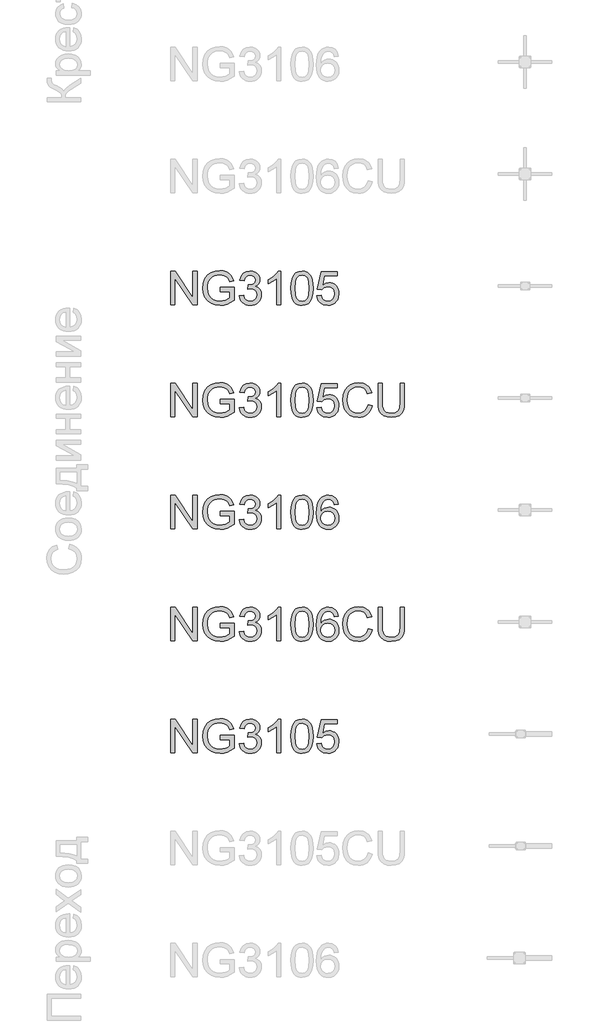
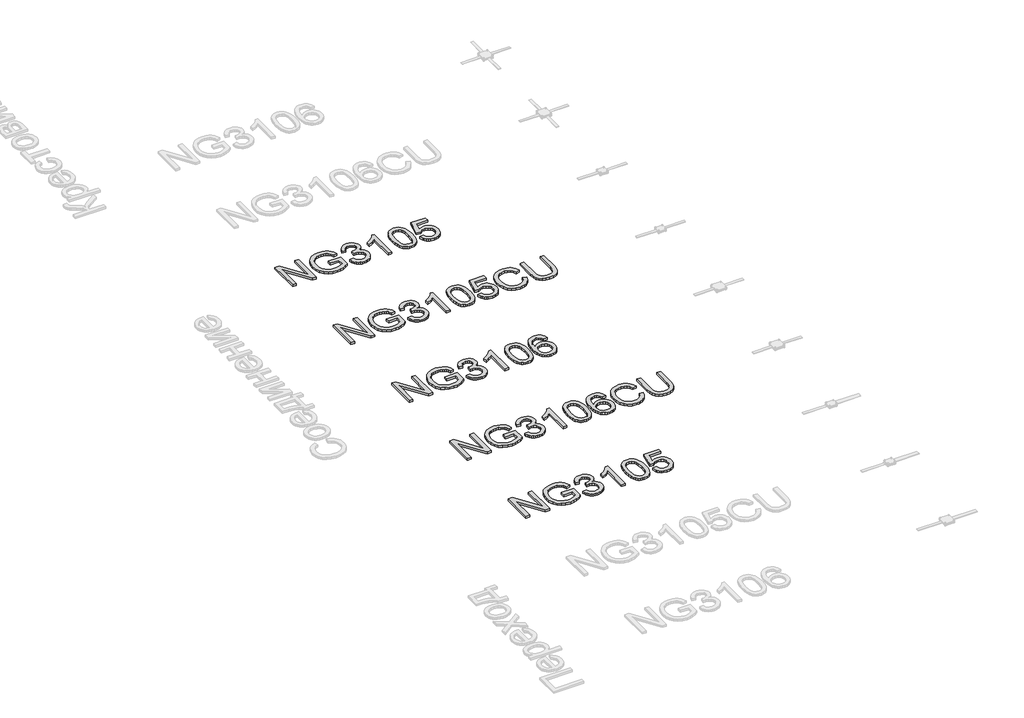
# One storey, part 113 of 124: 5 proxies.
"""IFC4 building model written with IfcOpenShell, lengths in millimetres."""

from ifc_helpers import new_model, si_unit, origin, origin_with_axes, place, context, project, spatial, polyline, outline, extrude, element, save

model = new_model("IFC4")

# Units and contexts
model_context = context("Model", 3, world=origin())
ifc_project = project(units=[si_unit("LENGTHUNIT", "METRE", prefix="MILLI")], contexts=[model_context])

# Site, building, storey
site = spatial("IfcSite", under=ifc_project)
building = spatial("IfcBuilding", under=site)
storey = spatial("IfcBuildingStorey", under=building, Name="Этаж 01", Elevation=0.0)

# Proxies
placement = place(None, origin())
element("IfcBuildingElementProxy", 1, Name="300", ObjectType="300", at=placement, inside=storey, context=model_context, shape_type="SweptSolid", body=[
    extrude(outline(polyline([(56699.8220677, -17519.5141033), (56699.8220677, -17218.1451728), (56740.1419344, -17218.1451728), (56897.5954283, -17456.9005877), (56897.5954283, -17218.1451728), (56935.2665446, -17218.1451728), (56935.2665446, -17519.5141033), (56894.9466779, -17519.5141033), (56737.493184, -17280.685112), (56737.493184, -17519.5141033), (56699.8220677, -17519.5141033)])), origin_with_axes(), (0.0, 0.0, 1.0), 20.0),
    extrude(outline(polyline([(57142.4576843, -17401.7918648), (57142.4576843, -17364.1207485), (57264.8888123, -17364.1207485), (57264.8888123, -17476.7662154), (57235.1363559, -17497.4595776), (57204.4458005, -17512.3036162), (57172.8907223, -17521.2431486), (57140.5446979, -17524.2229928), (57098.2842537, -17519.4865121), (57060.0889056, -17505.27707), (57028.3590835, -17482.0913073), (57005.4952175, -17450.4258646), (56991.6720515, -17412.4420486), (56987.0643295, -17370.301166), (56991.6536574, -17327.8567808), (57005.4216411, -17288.3738457), (57027.7980634, -17255.2552691), (57058.2127074, -17231.9039594), (57095.2584243, -17218.0532023), (57137.5280656, -17213.4362833), (57168.5589118, -17216.1126248), (57196.4627612, -17224.1416493), (57219.9612236, -17236.9439428), (57237.7759092, -17253.9400909), (57250.9552817, -17275.9486313), (57260.5478047, -17303.7881013), (57225.8197444, -17313.5737624), (57218.0666313, -17293.7173317), (57208.6396552, -17278.7353374), (57196.1684556, -17267.4413602), (57179.282672, -17258.6489805), (57159.1503298, -17252.9927948), (57136.9394544, -17251.1073996), (57110.9393944, -17253.1399476), (57088.7101248, -17259.2375917), (57070.3344191, -17268.6369766), (57055.8950508, -17280.5747474), (57036.5076697, -17309.6006368), (57027.6785018, -17338.037915), (57024.7354458, -17368.7560616), (57028.27631, -17404.780906), (57038.8989026, -17434.4229978), (57056.2813269, -17457.4708048), (57080.1016861, -17473.7127949), (57107.9779443, -17483.3421061), (57137.5280656, -17486.5518765), (57163.6200961, -17484.1330524), (57189.0683331, -17476.87658), (57211.1688439, -17466.8793868), (57227.217696, -17456.2384001), (57227.217696, -17401.7918648), (57142.4576843, -17401.7918648)])), origin_with_axes(), (0.0, 0.0, 1.0), 20.0),
    extrude(outline(polyline([(57311.9777077, -17439.4629811), (57349.648824, -17434.7540916), (57358.0825187, -17458.427298), (57370.4341567, -17474.4117707), (57387.3107432, -17483.51685), (57409.3192836, -17486.5518765), (57435.1445997, -17482.3764158), (57455.0838038, -17469.8500339), (57467.8309149, -17451.1616286), (57472.079952, -17428.5000977), (57467.8677031, -17406.988198), (57455.2309566, -17389.5413944), (57436.1010928, -17377.9807027), (57412.4094924, -17374.1271388), (57385.9955651, -17378.2474171), (57390.1894198, -17340.5763008), (57396.2226846, -17341.0177592), (57418.792245, -17338.3138265), (57438.9705724, -17330.2020285), (57453.2076056, -17316.4800301), (57457.9532834, -17296.9454962), (57454.5135867, -17280.6759149), (57444.1944967, -17267.4781484), (57428.4491473, -17258.7317539), (57408.7306724, -17255.8162891), (57388.9754093, -17258.7593451), (57372.8253897, -17267.588513), (57361.0347717, -17282.3037928), (57354.3577135, -17302.9051845), (57316.6865972, -17298.196295), (57327.7782394, -17264.3695455), (57347.5151084, -17239.1144465), (57374.5176468, -17223.3874912), (57407.4062972, -17218.1451728), (57431.0887007, -17220.7295438), (57452.8397236, -17228.4826569), (57471.1786411, -17240.7147332), (57484.624728, -17256.7359941), (57492.8744817, -17275.1944732), (57495.6243997, -17294.7382042), (57493.0124375, -17312.948363), (57485.176551, -17329.4662646), (57472.2271048, -17343.5377509), (57454.2744634, -17354.4086638), (57477.8556993, -17363.9368075), (57495.3300941, -17380.1604035), (57506.1458247, -17402.196535), (57509.7510683, -17429.1622852), (57507.9484465, -17448.2737549), (57502.5405812, -17465.8769084), (57493.5274723, -17481.9717457), (57480.9091199, -17496.5582668), (57465.536251, -17508.6615844), (57448.2595928, -17517.3068113), (57429.0791453, -17522.4939474), (57407.9949084, -17524.2229928), (57388.9386211, -17522.7468663), (57371.5745909, -17518.3184868), (57355.9028179, -17510.9378542), (57341.9233021, -17500.6049687), (57330.201662, -17487.9268354), (57321.3035162, -17473.5104598), (57315.2288648, -17457.3558417), (57311.9777077, -17439.4629811)])), origin_with_axes(), (0.0, 0.0, 1.0), 20.0),
    extrude(outline(polyline([(57683.9799812, -17519.5141033), (57646.3088649, -17519.5141033), (57646.3088649, -17284.6582375), (57610.6243114, -17310.0788834), (57570.9666323, -17329.0983826), (57570.9666323, -17293.4874054), (57600.5535417, -17277.3925681), (57626.1857197, -17258.2443103), (57646.3916383, -17237.8820419), (57659.6997695, -17218.1451728), (57683.9799812, -17218.1451728), (57683.9799812, -17519.5141033)])), origin_with_axes(), (0.0, 0.0, 1.0), 20.0),
    extrude(outline(polyline([(57773.4488824, -17371.2576592), (57776.2171944, -17323.0191326), (57784.5221305, -17284.5478729), (57798.2809171, -17255.2552691), (57817.4107808, -17234.5527098), (57842.0496775, -17222.2470571), (57872.3355627, -17218.1451728), (57895.5489166, -17220.573194), (57916.3342493, -17227.8572575), (57933.7166736, -17239.7122548), (57946.7213021, -17255.8530773), (57956.5437514, -17276.1417694), (57964.3796379, -17300.4403751), (57969.5115917, -17331.2964775), (57971.222243, -17371.2576592), (57968.4815222, -17419.2202743), (57960.2593596, -17457.5995635), (57946.5833464, -17486.9197585), (57927.4810738, -17507.7050912), (57902.7869949, -17520.0935174), (57872.3355627, -17524.2229928), (57851.5870182, -17522.4295681), (57833.1929184, -17517.0492939), (57817.1532634, -17508.0821703), (57803.4680532, -17495.5281972), (57790.334666, -17472.8344766), (57780.9536751, -17444.5581467), (57775.3250806, -17410.6992076), (57773.4488824, -17371.2576592)]), holes=[polyline([(57811.1199987, -17371.1840828), (57815.5345827, -17430.4406752), (57821.0528126, -17450.7086739), (57828.7783345, -17464.7364742), (57848.4968094, -17481.0980259), (57872.3355627, -17486.5518765), (57896.174316, -17481.0796318), (57915.892791, -17464.6628978), (57923.6183128, -17450.6121048), (57929.1365428, -17430.3487047), (57933.5511267, -17371.1840828), (57929.2836956, -17313.2610627), (57923.9494066, -17293.0597426), (57916.4814021, -17278.6985492), (57896.7997154, -17261.5368541), (57871.8941043, -17255.8162891), (57848.3128684, -17260.8562725), (57829.3669457, -17275.9762225), (57821.3839064, -17291.6112072), (57815.6817355, -17312.6908456), (57811.1199987, -17371.1840828)])]), origin_with_axes(), (0.0, 0.0, 1.0), 20.0),
    extrude(outline(polyline([(58004.1844698, -17439.4629811), (58041.8555861, -17434.7540916), (58048.7717676, -17457.3696372), (58060.838297, -17473.5656421), (58077.9999921, -17483.3053179), (58100.2016705, -17486.5518765), (58127.204209, -17482.036125), (58147.4377187, -17468.4888705), (58160.0744652, -17447.4736116), (58164.2867141, -17420.5538466), (58160.3411797, -17395.2067771), (58148.5045765, -17375.8193959), (58128.684934, -17363.5137432), (58100.7902817, -17359.411859), (58082.5157436, -17361.0489338), (58067.7176904, -17365.9601585), (58046.5644756, -17382.9563067), (58008.8933593, -17378.2474171), (58041.8555861, -17222.8540624), (58187.8311618, -17222.8540624), (58187.8311618, -17260.5251787), (58072.3162153, -17260.5251787), (58056.2029839, -17343.5193568), (58083.1135519, -17327.1853962), (58111.3117068, -17321.7407427), (58129.657522, -17323.4284013), (58146.5088167, -17328.4913773), (58161.8655907, -17336.9296705), (58175.7278441, -17348.7432811), (58187.2034631, -17363.2102406), (58195.4003338, -17379.6085805), (58200.3184563, -17397.9383009), (58201.9578304, -17418.1994018), (58196.0533244, -17455.8705181), (58188.6726918, -17472.6643312), (58178.3398063, -17488.0969809), (58162.6864274, -17503.9021111), (58144.4210864, -17515.1914898), (58123.5437831, -17521.9651171), (58100.0545177, -17524.2229928), (58063.0547861, -17518.4196543), (58047.3761153, -17511.1654812), (58033.5782412, -17501.0096389), (58022.0980237, -17488.4579651), (58013.3723226, -17474.0162975), (58004.1844698, -17439.4629811)])), origin_with_axes(), (0.0, 0.0, 1.0), 20.0),
])
element("IfcBuildingElementProxy", 2, Name="300", ObjectType="300", at=placement, inside=storey, context=model_context, shape_type="SweptSolid", body=[
    extrude(outline(polyline([(56699.8220677, -18519.5141033), (56699.8220677, -18218.1451728), (56740.1419344, -18218.1451728), (56897.5954283, -18456.9005877), (56897.5954283, -18218.1451728), (56935.2665446, -18218.1451728), (56935.2665446, -18519.5141033), (56894.9466779, -18519.5141033), (56737.493184, -18280.685112), (56737.493184, -18519.5141033), (56699.8220677, -18519.5141033)])), origin_with_axes(), (0.0, 0.0, 1.0), 20.0),
    extrude(outline(polyline([(57142.4576843, -18401.7918648), (57142.4576843, -18364.1207485), (57264.8888123, -18364.1207485), (57264.8888123, -18476.7662154), (57235.1363559, -18497.4595776), (57204.4458005, -18512.3036162), (57172.8907223, -18521.2431486), (57140.5446979, -18524.2229928), (57098.2842537, -18519.4865121), (57060.0889056, -18505.27707), (57028.3590835, -18482.0913073), (57005.4952175, -18450.4258646), (56991.6720515, -18412.4420486), (56987.0643295, -18370.301166), (56991.6536574, -18327.8567808), (57005.4216411, -18288.3738457), (57027.7980634, -18255.2552691), (57058.2127074, -18231.9039594), (57095.2584243, -18218.0532023), (57137.5280656, -18213.4362833), (57168.5589118, -18216.1126248), (57196.4627612, -18224.1416493), (57219.9612236, -18236.9439428), (57237.7759092, -18253.9400909), (57250.9552817, -18275.9486313), (57260.5478047, -18303.7881013), (57225.8197444, -18313.5737624), (57218.0666313, -18293.7173317), (57208.6396552, -18278.7353374), (57196.1684556, -18267.4413602), (57179.282672, -18258.6489805), (57159.1503298, -18252.9927948), (57136.9394544, -18251.1073996), (57110.9393944, -18253.1399476), (57088.7101248, -18259.2375917), (57070.3344191, -18268.6369766), (57055.8950508, -18280.5747474), (57036.5076697, -18309.6006368), (57027.6785018, -18338.037915), (57024.7354458, -18368.7560616), (57028.27631, -18404.780906), (57038.8989026, -18434.4229978), (57056.2813269, -18457.4708048), (57080.1016861, -18473.7127949), (57107.9779443, -18483.3421061), (57137.5280656, -18486.5518765), (57163.6200961, -18484.1330524), (57189.0683331, -18476.87658), (57211.1688439, -18466.8793868), (57227.217696, -18456.2384001), (57227.217696, -18401.7918648), (57142.4576843, -18401.7918648)])), origin_with_axes(), (0.0, 0.0, 1.0), 20.0),
    extrude(outline(polyline([(57311.9777077, -18439.4629811), (57349.648824, -18434.7540916), (57358.0825187, -18458.427298), (57370.4341567, -18474.4117707), (57387.3107432, -18483.51685), (57409.3192836, -18486.5518765), (57435.1445997, -18482.3764158), (57455.0838038, -18469.8500339), (57467.8309149, -18451.1616286), (57472.079952, -18428.5000977), (57467.8677031, -18406.988198), (57455.2309566, -18389.5413944), (57436.1010928, -18377.9807027), (57412.4094924, -18374.1271388), (57385.9955651, -18378.2474171), (57390.1894198, -18340.5763008), (57396.2226846, -18341.0177592), (57418.792245, -18338.3138265), (57438.9705724, -18330.2020285), (57453.2076056, -18316.4800301), (57457.9532834, -18296.9454962), (57454.5135867, -18280.6759149), (57444.1944967, -18267.4781484), (57428.4491473, -18258.7317539), (57408.7306724, -18255.8162891), (57388.9754093, -18258.7593451), (57372.8253897, -18267.588513), (57361.0347717, -18282.3037928), (57354.3577135, -18302.9051845), (57316.6865972, -18298.196295), (57327.7782394, -18264.3695455), (57347.5151084, -18239.1144465), (57374.5176468, -18223.3874912), (57407.4062972, -18218.1451728), (57431.0887007, -18220.7295438), (57452.8397236, -18228.4826569), (57471.1786411, -18240.7147332), (57484.624728, -18256.7359941), (57492.8744817, -18275.1944732), (57495.6243997, -18294.7382042), (57493.0124375, -18312.948363), (57485.176551, -18329.4662646), (57472.2271048, -18343.5377509), (57454.2744634, -18354.4086638), (57477.8556993, -18363.9368075), (57495.3300941, -18380.1604035), (57506.1458247, -18402.196535), (57509.7510683, -18429.1622852), (57507.9484465, -18448.2737549), (57502.5405812, -18465.8769084), (57493.5274723, -18481.9717457), (57480.9091199, -18496.5582668), (57465.536251, -18508.6615844), (57448.2595928, -18517.3068113), (57429.0791453, -18522.4939474), (57407.9949084, -18524.2229928), (57388.9386211, -18522.7468663), (57371.5745909, -18518.3184868), (57355.9028179, -18510.9378542), (57341.9233021, -18500.6049687), (57330.201662, -18487.9268354), (57321.3035162, -18473.5104598), (57315.2288648, -18457.3558417), (57311.9777077, -18439.4629811)])), origin_with_axes(), (0.0, 0.0, 1.0), 20.0),
    extrude(outline(polyline([(57683.9799812, -18519.5141033), (57646.3088649, -18519.5141033), (57646.3088649, -18284.6582375), (57610.6243114, -18310.0788834), (57570.9666323, -18329.0983826), (57570.9666323, -18293.4874054), (57600.5535417, -18277.3925681), (57626.1857197, -18258.2443103), (57646.3916383, -18237.8820419), (57659.6997695, -18218.1451728), (57683.9799812, -18218.1451728), (57683.9799812, -18519.5141033)])), origin_with_axes(), (0.0, 0.0, 1.0), 20.0),
    extrude(outline(polyline([(57773.4488824, -18371.2576592), (57776.2171944, -18323.0191326), (57784.5221305, -18284.5478729), (57798.2809171, -18255.2552691), (57817.4107808, -18234.5527098), (57842.0496775, -18222.2470571), (57872.3355627, -18218.1451728), (57895.5489166, -18220.573194), (57916.3342493, -18227.8572575), (57933.7166736, -18239.7122548), (57946.7213021, -18255.8530773), (57956.5437514, -18276.1417694), (57964.3796379, -18300.4403751), (57969.5115917, -18331.2964775), (57971.222243, -18371.2576592), (57968.4815222, -18419.2202743), (57960.2593596, -18457.5995635), (57946.5833464, -18486.9197585), (57927.4810738, -18507.7050912), (57902.7869949, -18520.0935174), (57872.3355627, -18524.2229928), (57851.5870182, -18522.4295681), (57833.1929184, -18517.0492939), (57817.1532634, -18508.0821703), (57803.4680532, -18495.5281972), (57790.334666, -18472.8344766), (57780.9536751, -18444.5581467), (57775.3250806, -18410.6992076), (57773.4488824, -18371.2576592)]), holes=[polyline([(57811.1199987, -18371.1840828), (57815.5345827, -18430.4406752), (57821.0528126, -18450.7086739), (57828.7783345, -18464.7364742), (57848.4968094, -18481.0980259), (57872.3355627, -18486.5518765), (57896.174316, -18481.0796318), (57915.892791, -18464.6628978), (57923.6183128, -18450.6121048), (57929.1365428, -18430.3487047), (57933.5511267, -18371.1840828), (57929.2836956, -18313.2610627), (57923.9494066, -18293.0597426), (57916.4814021, -18278.6985492), (57896.7997154, -18261.5368541), (57871.8941043, -18255.8162891), (57848.3128684, -18260.8562725), (57829.3669457, -18275.9762225), (57821.3839064, -18291.6112072), (57815.6817355, -18312.6908456), (57811.1199987, -18371.1840828)])]), origin_with_axes(), (0.0, 0.0, 1.0), 20.0),
    extrude(outline(polyline([(58004.1844698, -18439.4629811), (58041.8555861, -18434.7540916), (58048.7717676, -18457.3696372), (58060.838297, -18473.5656421), (58077.9999921, -18483.3053179), (58100.2016705, -18486.5518765), (58127.204209, -18482.036125), (58147.4377187, -18468.4888705), (58160.0744652, -18447.4736116), (58164.2867141, -18420.5538466), (58160.3411797, -18395.2067771), (58148.5045765, -18375.8193959), (58128.684934, -18363.5137432), (58100.7902817, -18359.411859), (58082.5157436, -18361.0489338), (58067.7176904, -18365.9601585), (58046.5644756, -18382.9563067), (58008.8933593, -18378.2474171), (58041.8555861, -18222.8540624), (58187.8311618, -18222.8540624), (58187.8311618, -18260.5251787), (58072.3162153, -18260.5251787), (58056.2029839, -18343.5193568), (58083.1135519, -18327.1853962), (58111.3117068, -18321.7407427), (58129.657522, -18323.4284013), (58146.5088167, -18328.4913773), (58161.8655907, -18336.9296705), (58175.7278441, -18348.7432811), (58187.2034631, -18363.2102406), (58195.4003338, -18379.6085805), (58200.3184563, -18397.9383009), (58201.9578304, -18418.1994018), (58196.0533244, -18455.8705181), (58188.6726918, -18472.6643312), (58178.3398063, -18488.0969809), (58162.6864274, -18503.9021111), (58144.4210864, -18515.1914898), (58123.5437831, -18521.9651171), (58100.0545177, -18524.2229928), (58063.0547861, -18518.4196543), (58047.3761153, -18511.1654812), (58033.5782412, -18501.0096389), (58022.0980237, -18488.4579651), (58013.3723226, -18474.0162975), (58004.1844698, -18439.4629811)])), origin_with_axes(), (0.0, 0.0, 1.0), 20.0),
    extrude(outline(polyline([(58460.946755, -18412.3868663), (58498.6178713, -18422.0989509), (58491.1636624, -18445.5261362), (58481.235447, -18465.99647), (58468.8332253, -18483.5099522), (58453.9569971, -18498.0665829), (58436.9424548, -18509.5100123), (58418.1252908, -18517.6838903), (58397.5055049, -18522.5882172), (58375.0830973, -18524.2229928), (58331.3879134, -18519.27498), (58296.6874442, -18504.4309415), (58270.0895759, -18480.2059121), (58250.7021948, -18447.1149266), (58238.8655916, -18408.2114056), (58234.9200572, -18366.5487697), (58239.3806264, -18322.6052653), (58252.7623339, -18284.6582375), (58274.3662041, -18253.9124998), (58303.4932611, -18231.5728656), (58338.0373804, -18217.9704289), (58375.8924377, -18213.4362833), (58417.1963887, -18219.3040011), (58435.1651249, -18226.6386484), (58451.3450349, -18236.9071546), (58465.4694043, -18249.8382067), (58477.2715185, -18265.1604918), (58493.9089818, -18302.9787609), (58456.2378655, -18311.9550816), (58443.1780546, -18284.4834936), (58425.3357779, -18265.6387384), (58402.490306, -18254.7402343), (58374.4209097, -18251.1073996), (58342.0656883, -18255.1357074), (58315.4862141, -18267.220631), (58295.3170837, -18286.0929773), (58282.1928935, -18310.4835536), (58274.9916035, -18338.0563091), (58272.5911735, -18366.4751933), (58275.4330619, -18401.27683), (58283.9587271, -18431.3695772), (58298.4900659, -18455.6038036), (58319.3489751, -18472.8298781), (58344.3557537, -18483.1213769), (58371.330701, -18486.5518765), (58402.7754145, -18481.8797752), (58428.9778096, -18467.8634711), (58448.7606639, -18444.6501172), (58460.946755, -18412.3868663)])), origin_with_axes(), (0.0, 0.0, 1.0), 20.0),
    extrude(outline(polyline([(58748.1890168, -18218.1451728), (58785.8601331, -18218.1451728), (58785.8601331, -18392.0062037), (58783.3033533, -18432.7215435), (58775.6330137, -18464.0742866), (58761.30401, -18488.2625278), (58738.7712378, -18507.484362), (58707.9795148, -18520.0383351), (58668.8736587, -18524.2229928), (58630.6231282, -18520.580961), (58600.0429374, -18509.6548658), (58577.1238891, -18491.8217861), (58561.8567863, -18467.4588009), (58553.2759387, -18434.7816827), (58550.4156562, -18392.0062037), (58550.4156562, -18218.1451728), (58588.0867725, -18218.1451728), (58588.0867725, -18390.6818285), (58589.9445766, -18424.5361692), (58595.5179888, -18448.108208), (58605.6163496, -18464.4329715), (58621.0489993, -18476.5454862), (58641.1721444, -18484.0502789), (58665.3419915, -18486.5518765), (58703.6569013, -18481.6038637), (58717.9997006, -18475.4188476), (58729.1327295, -18466.7598252), (58737.4698552, -18454.5829311), (58743.424945, -18437.8443003), (58748.1890168, -18390.6818285), (58748.1890168, -18218.1451728)])), origin_with_axes(), (0.0, 0.0, 1.0), 20.0),
])
element("IfcBuildingElementProxy", 3, Name="300", ObjectType="300", at=placement, inside=storey, context=model_context, shape_type="SweptSolid", body=[
    extrude(outline(polyline([(56699.8220677, -19519.5141033), (56699.8220677, -19218.1451728), (56740.1419344, -19218.1451728), (56897.5954283, -19456.9005877), (56897.5954283, -19218.1451728), (56935.2665446, -19218.1451728), (56935.2665446, -19519.5141033), (56894.9466779, -19519.5141033), (56737.493184, -19280.685112), (56737.493184, -19519.5141033), (56699.8220677, -19519.5141033)])), origin_with_axes(), (0.0, 0.0, 1.0), 20.0),
    extrude(outline(polyline([(57142.4576843, -19401.7918648), (57142.4576843, -19364.1207485), (57264.8888123, -19364.1207485), (57264.8888123, -19476.7662154), (57235.1363559, -19497.4595776), (57204.4458005, -19512.3036162), (57172.8907223, -19521.2431486), (57140.5446979, -19524.2229928), (57098.2842537, -19519.4865121), (57060.0889056, -19505.27707), (57028.3590835, -19482.0913073), (57005.4952175, -19450.4258646), (56991.6720515, -19412.4420486), (56987.0643295, -19370.301166), (56991.6536574, -19327.8567808), (57005.4216411, -19288.3738457), (57027.7980634, -19255.2552691), (57058.2127074, -19231.9039594), (57095.2584243, -19218.0532023), (57137.5280656, -19213.4362833), (57168.5589118, -19216.1126248), (57196.4627612, -19224.1416493), (57219.9612236, -19236.9439428), (57237.7759092, -19253.9400909), (57250.9552817, -19275.9486313), (57260.5478047, -19303.7881013), (57225.8197444, -19313.5737624), (57218.0666313, -19293.7173317), (57208.6396552, -19278.7353374), (57196.1684556, -19267.4413602), (57179.282672, -19258.6489805), (57159.1503298, -19252.9927948), (57136.9394544, -19251.1073996), (57110.9393944, -19253.1399476), (57088.7101248, -19259.2375917), (57070.3344191, -19268.6369766), (57055.8950508, -19280.5747474), (57036.5076697, -19309.6006368), (57027.6785018, -19338.037915), (57024.7354458, -19368.7560616), (57028.27631, -19404.780906), (57038.8989026, -19434.4229978), (57056.2813269, -19457.4708048), (57080.1016861, -19473.7127949), (57107.9779443, -19483.3421061), (57137.5280656, -19486.5518765), (57163.6200961, -19484.1330524), (57189.0683331, -19476.87658), (57211.1688439, -19466.8793868), (57227.217696, -19456.2384001), (57227.217696, -19401.7918648), (57142.4576843, -19401.7918648)])), origin_with_axes(), (0.0, 0.0, 1.0), 20.0),
    extrude(outline(polyline([(57311.9777077, -19439.4629811), (57349.648824, -19434.7540916), (57358.0825187, -19458.427298), (57370.4341567, -19474.4117707), (57387.3107432, -19483.51685), (57409.3192836, -19486.5518765), (57435.1445997, -19482.3764158), (57455.0838038, -19469.8500339), (57467.8309149, -19451.1616286), (57472.079952, -19428.5000977), (57467.8677031, -19406.988198), (57455.2309566, -19389.5413944), (57436.1010928, -19377.9807027), (57412.4094924, -19374.1271388), (57385.9955651, -19378.2474171), (57390.1894198, -19340.5763008), (57396.2226846, -19341.0177592), (57418.792245, -19338.3138265), (57438.9705724, -19330.2020285), (57453.2076056, -19316.4800301), (57457.9532834, -19296.9454962), (57454.5135867, -19280.6759149), (57444.1944967, -19267.4781484), (57428.4491473, -19258.7317539), (57408.7306724, -19255.8162891), (57388.9754093, -19258.7593451), (57372.8253897, -19267.588513), (57361.0347717, -19282.3037928), (57354.3577135, -19302.9051845), (57316.6865972, -19298.196295), (57327.7782394, -19264.3695455), (57347.5151084, -19239.1144465), (57374.5176468, -19223.3874912), (57407.4062972, -19218.1451728), (57431.0887007, -19220.7295438), (57452.8397236, -19228.4826569), (57471.1786411, -19240.7147332), (57484.624728, -19256.7359941), (57492.8744817, -19275.1944732), (57495.6243997, -19294.7382042), (57493.0124375, -19312.948363), (57485.176551, -19329.4662646), (57472.2271048, -19343.5377509), (57454.2744634, -19354.4086638), (57477.8556993, -19363.9368075), (57495.3300941, -19380.1604035), (57506.1458247, -19402.196535), (57509.7510683, -19429.1622852), (57507.9484465, -19448.2737549), (57502.5405812, -19465.8769084), (57493.5274723, -19481.9717457), (57480.9091199, -19496.5582668), (57465.536251, -19508.6615844), (57448.2595928, -19517.3068113), (57429.0791453, -19522.4939474), (57407.9949084, -19524.2229928), (57388.9386211, -19522.7468663), (57371.5745909, -19518.3184868), (57355.9028179, -19510.9378542), (57341.9233021, -19500.6049687), (57330.201662, -19487.9268354), (57321.3035162, -19473.5104598), (57315.2288648, -19457.3558417), (57311.9777077, -19439.4629811)])), origin_with_axes(), (0.0, 0.0, 1.0), 20.0),
    extrude(outline(polyline([(57683.9799812, -19519.5141033), (57646.3088649, -19519.5141033), (57646.3088649, -19284.6582375), (57610.6243114, -19310.0788834), (57570.9666323, -19329.0983826), (57570.9666323, -19293.4874054), (57600.5535417, -19277.3925681), (57626.1857197, -19258.2443103), (57646.3916383, -19237.8820419), (57659.6997695, -19218.1451728), (57683.9799812, -19218.1451728), (57683.9799812, -19519.5141033)])), origin_with_axes(), (0.0, 0.0, 1.0), 20.0),
    extrude(outline(polyline([(57773.4488824, -19371.2576592), (57776.2171944, -19323.0191326), (57784.5221305, -19284.5478729), (57798.2809171, -19255.2552691), (57817.4107808, -19234.5527098), (57842.0496775, -19222.2470571), (57872.3355627, -19218.1451728), (57895.5489166, -19220.573194), (57916.3342493, -19227.8572575), (57933.7166736, -19239.7122548), (57946.7213021, -19255.8530773), (57956.5437514, -19276.1417694), (57964.3796379, -19300.4403751), (57969.5115917, -19331.2964775), (57971.222243, -19371.2576592), (57968.4815222, -19419.2202743), (57960.2593596, -19457.5995635), (57946.5833464, -19486.9197585), (57927.4810738, -19507.7050912), (57902.7869949, -19520.0935174), (57872.3355627, -19524.2229928), (57851.5870182, -19522.4295681), (57833.1929184, -19517.0492939), (57817.1532634, -19508.0821703), (57803.4680532, -19495.5281972), (57790.334666, -19472.8344766), (57780.9536751, -19444.5581467), (57775.3250806, -19410.6992076), (57773.4488824, -19371.2576592)]), holes=[polyline([(57811.1199987, -19371.1840828), (57815.5345827, -19430.4406752), (57821.0528126, -19450.7086739), (57828.7783345, -19464.7364742), (57848.4968094, -19481.0980259), (57872.3355627, -19486.5518765), (57896.174316, -19481.0796318), (57915.892791, -19464.6628978), (57923.6183128, -19450.6121048), (57929.1365428, -19430.3487047), (57933.5511267, -19371.1840828), (57929.2836956, -19313.2610627), (57923.9494066, -19293.0597426), (57916.4814021, -19278.6985492), (57896.7997154, -19261.5368541), (57871.8941043, -19255.8162891), (57848.3128684, -19260.8562725), (57829.3669457, -19275.9762225), (57821.3839064, -19291.6112072), (57815.6817355, -19312.6908456), (57811.1199987, -19371.1840828)])]), origin_with_axes(), (0.0, 0.0, 1.0), 20.0),
    extrude(outline(polyline([(58197.2489409, -19298.196295), (58159.5778246, -19302.9051845), (58153.5077716, -19284.2351732), (58145.3040031, -19271.4880621), (58128.2158845, -19259.7342324), (58107.5593104, -19255.8162891), (58090.0481275, -19258.0971575), (58073.5670141, -19264.9397626), (58059.4127543, -19279.3515398), (58047.8520626, -19299.1895763), (58040.0437673, -19327.2497755), (58037.1466966, -19366.3280405), (58052.2574495, -19348.6972959), (58070.3664407, -19336.2720815), (58090.4619947, -19328.9052445), (58111.532436, -19326.4496322), (58129.6322301, -19328.1280938), (58146.3340727, -19333.1634786), (58161.6379637, -19341.5557866), (58175.5439031, -19353.3050178), (58187.0999963, -19367.7121965), (58195.3543486, -19384.0783467), (58200.3069599, -19402.4034686), (58201.9578304, -19422.6875621), (58198.8492275, -19449.6625094), (58189.523419, -19474.669288), (58174.7529569, -19495.8776851), (58155.3103934, -19511.4574876), (58132.0786454, -19521.0316165), (58105.9406297, -19524.2229928), (58083.4837331, -19522.1076713), (58063.2019389, -19515.7617069), (58045.0952469, -19505.1850995), (58029.1636573, -19490.3778492), (58016.1751236, -19470.7145566), (58006.8975995, -19445.5698222), (58001.3310851, -19414.9436461), (57999.4755803, -19378.8360283), (58001.5357194, -19338.3552133), (58007.7161369, -19303.8064954), (58018.0168328, -19275.1898747), (58032.437807, -19252.5053512), (58048.0681933, -19237.4727731), (58066.1909801, -19226.7352174), (58086.8061674, -19220.292684), (58109.9137552, -19218.1451728), (58142.9679525, -19223.4610676), (58169.437062, -19239.4087521), (58187.9783146, -19264.7374275), (58197.2489409, -19298.196295)]), holes=[polyline([(58037.1466966, -19422.0989509), (58039.3263974, -19438.7915965), (58045.8654998, -19454.7300839), (58056.0190429, -19468.4336882), (58069.0420655, -19478.4216844), (58084.7598238, -19484.5193285), (58102.9975737, -19486.5518765), (58127.8571995, -19482.3396276), (58147.4009305, -19469.7028811), (58160.0652682, -19449.8372534), (58164.2867141, -19423.9383609), (58160.1204505, -19399.0787351), (58147.6216597, -19380.1236153), (58127.7468349, -19368.1214652), (58101.4524693, -19364.1207485), (58076.6296317, -19368.1214652), (58055.8718901, -19380.1236153), (58041.8279949, -19398.6188826), (58037.1466966, -19422.0989509)])]), origin_with_axes(), (0.0, 0.0, 1.0), 20.0),
])
element("IfcBuildingElementProxy", 4, Name="300", ObjectType="300", at=placement, inside=storey, context=model_context, shape_type="SweptSolid", body=[
    extrude(outline(polyline([(56699.8220677, -20519.5141033), (56699.8220677, -20218.1451728), (56740.1419344, -20218.1451728), (56897.5954283, -20456.9005877), (56897.5954283, -20218.1451728), (56935.2665446, -20218.1451728), (56935.2665446, -20519.5141033), (56894.9466779, -20519.5141033), (56737.493184, -20280.685112), (56737.493184, -20519.5141033), (56699.8220677, -20519.5141033)])), origin_with_axes(), (0.0, 0.0, 1.0), 20.0),
    extrude(outline(polyline([(57142.4576843, -20401.7918648), (57142.4576843, -20364.1207485), (57264.8888123, -20364.1207485), (57264.8888123, -20476.7662154), (57235.1363559, -20497.4595776), (57204.4458005, -20512.3036162), (57172.8907223, -20521.2431486), (57140.5446979, -20524.2229928), (57098.2842537, -20519.4865121), (57060.0889056, -20505.27707), (57028.3590835, -20482.0913073), (57005.4952175, -20450.4258646), (56991.6720515, -20412.4420486), (56987.0643295, -20370.301166), (56991.6536574, -20327.8567808), (57005.4216411, -20288.3738457), (57027.7980634, -20255.2552691), (57058.2127074, -20231.9039594), (57095.2584243, -20218.0532023), (57137.5280656, -20213.4362833), (57168.5589118, -20216.1126248), (57196.4627612, -20224.1416493), (57219.9612236, -20236.9439428), (57237.7759092, -20253.9400909), (57250.9552817, -20275.9486313), (57260.5478047, -20303.7881013), (57225.8197444, -20313.5737624), (57218.0666313, -20293.7173317), (57208.6396552, -20278.7353374), (57196.1684556, -20267.4413602), (57179.282672, -20258.6489805), (57159.1503298, -20252.9927948), (57136.9394544, -20251.1073996), (57110.9393944, -20253.1399476), (57088.7101248, -20259.2375917), (57070.3344191, -20268.6369766), (57055.8950508, -20280.5747474), (57036.5076697, -20309.6006368), (57027.6785018, -20338.037915), (57024.7354458, -20368.7560616), (57028.27631, -20404.780906), (57038.8989026, -20434.4229978), (57056.2813269, -20457.4708048), (57080.1016861, -20473.7127949), (57107.9779443, -20483.3421061), (57137.5280656, -20486.5518765), (57163.6200961, -20484.1330524), (57189.0683331, -20476.87658), (57211.1688439, -20466.8793868), (57227.217696, -20456.2384001), (57227.217696, -20401.7918648), (57142.4576843, -20401.7918648)])), origin_with_axes(), (0.0, 0.0, 1.0), 20.0),
    extrude(outline(polyline([(57311.9777077, -20439.4629811), (57349.648824, -20434.7540916), (57358.0825187, -20458.427298), (57370.4341567, -20474.4117707), (57387.3107432, -20483.51685), (57409.3192836, -20486.5518765), (57435.1445997, -20482.3764158), (57455.0838038, -20469.8500339), (57467.8309149, -20451.1616286), (57472.079952, -20428.5000977), (57467.8677031, -20406.988198), (57455.2309566, -20389.5413944), (57436.1010928, -20377.9807027), (57412.4094924, -20374.1271388), (57385.9955651, -20378.2474171), (57390.1894198, -20340.5763008), (57396.2226846, -20341.0177592), (57418.792245, -20338.3138265), (57438.9705724, -20330.2020285), (57453.2076056, -20316.4800301), (57457.9532834, -20296.9454962), (57454.5135867, -20280.6759149), (57444.1944967, -20267.4781484), (57428.4491473, -20258.7317539), (57408.7306724, -20255.8162891), (57388.9754093, -20258.7593451), (57372.8253897, -20267.588513), (57361.0347717, -20282.3037928), (57354.3577135, -20302.9051845), (57316.6865972, -20298.196295), (57327.7782394, -20264.3695455), (57347.5151084, -20239.1144465), (57374.5176468, -20223.3874912), (57407.4062972, -20218.1451728), (57431.0887007, -20220.7295438), (57452.8397236, -20228.4826569), (57471.1786411, -20240.7147332), (57484.624728, -20256.7359941), (57492.8744817, -20275.1944732), (57495.6243997, -20294.7382042), (57493.0124375, -20312.948363), (57485.176551, -20329.4662646), (57472.2271048, -20343.5377509), (57454.2744634, -20354.4086638), (57477.8556993, -20363.9368075), (57495.3300941, -20380.1604035), (57506.1458247, -20402.196535), (57509.7510683, -20429.1622852), (57507.9484465, -20448.2737549), (57502.5405812, -20465.8769084), (57493.5274723, -20481.9717457), (57480.9091199, -20496.5582668), (57465.536251, -20508.6615844), (57448.2595928, -20517.3068113), (57429.0791453, -20522.4939474), (57407.9949084, -20524.2229928), (57388.9386211, -20522.7468663), (57371.5745909, -20518.3184868), (57355.9028179, -20510.9378542), (57341.9233021, -20500.6049687), (57330.201662, -20487.9268354), (57321.3035162, -20473.5104598), (57315.2288648, -20457.3558417), (57311.9777077, -20439.4629811)])), origin_with_axes(), (0.0, 0.0, 1.0), 20.0),
    extrude(outline(polyline([(57683.9799812, -20519.5141033), (57646.3088649, -20519.5141033), (57646.3088649, -20284.6582375), (57610.6243114, -20310.0788834), (57570.9666323, -20329.0983826), (57570.9666323, -20293.4874054), (57600.5535417, -20277.3925681), (57626.1857197, -20258.2443103), (57646.3916383, -20237.8820419), (57659.6997695, -20218.1451728), (57683.9799812, -20218.1451728), (57683.9799812, -20519.5141033)])), origin_with_axes(), (0.0, 0.0, 1.0), 20.0),
    extrude(outline(polyline([(57773.4488824, -20371.2576592), (57776.2171944, -20323.0191326), (57784.5221305, -20284.5478729), (57798.2809171, -20255.2552691), (57817.4107808, -20234.5527098), (57842.0496775, -20222.2470571), (57872.3355627, -20218.1451728), (57895.5489166, -20220.573194), (57916.3342493, -20227.8572575), (57933.7166736, -20239.7122548), (57946.7213021, -20255.8530773), (57956.5437514, -20276.1417694), (57964.3796379, -20300.4403751), (57969.5115917, -20331.2964775), (57971.222243, -20371.2576592), (57968.4815222, -20419.2202743), (57960.2593596, -20457.5995635), (57946.5833464, -20486.9197585), (57927.4810738, -20507.7050912), (57902.7869949, -20520.0935174), (57872.3355627, -20524.2229928), (57851.5870182, -20522.4295681), (57833.1929184, -20517.0492939), (57817.1532634, -20508.0821703), (57803.4680532, -20495.5281972), (57790.334666, -20472.8344766), (57780.9536751, -20444.5581467), (57775.3250806, -20410.6992076), (57773.4488824, -20371.2576592)]), holes=[polyline([(57811.1199987, -20371.1840828), (57815.5345827, -20430.4406752), (57821.0528126, -20450.7086739), (57828.7783345, -20464.7364742), (57848.4968094, -20481.0980259), (57872.3355627, -20486.5518765), (57896.174316, -20481.0796318), (57915.892791, -20464.6628978), (57923.6183128, -20450.6121048), (57929.1365428, -20430.3487047), (57933.5511267, -20371.1840828), (57929.2836956, -20313.2610627), (57923.9494066, -20293.0597426), (57916.4814021, -20278.6985492), (57896.7997154, -20261.5368541), (57871.8941043, -20255.8162891), (57848.3128684, -20260.8562725), (57829.3669457, -20275.9762225), (57821.3839064, -20291.6112072), (57815.6817355, -20312.6908456), (57811.1199987, -20371.1840828)])]), origin_with_axes(), (0.0, 0.0, 1.0), 20.0),
    extrude(outline(polyline([(58197.2489409, -20298.196295), (58159.5778246, -20302.9051845), (58153.5077716, -20284.2351732), (58145.3040031, -20271.4880621), (58128.2158845, -20259.7342324), (58107.5593104, -20255.8162891), (58090.0481275, -20258.0971575), (58073.5670141, -20264.9397626), (58059.4127543, -20279.3515398), (58047.8520626, -20299.1895763), (58040.0437673, -20327.2497755), (58037.1466966, -20366.3280405), (58052.2574495, -20348.6972959), (58070.3664407, -20336.2720815), (58090.4619947, -20328.9052445), (58111.532436, -20326.4496322), (58129.6322301, -20328.1280938), (58146.3340727, -20333.1634786), (58161.6379637, -20341.5557866), (58175.5439031, -20353.3050178), (58187.0999963, -20367.7121965), (58195.3543486, -20384.0783467), (58200.3069599, -20402.4034686), (58201.9578304, -20422.6875621), (58198.8492275, -20449.6625094), (58189.523419, -20474.669288), (58174.7529569, -20495.8776851), (58155.3103934, -20511.4574876), (58132.0786454, -20521.0316165), (58105.9406297, -20524.2229928), (58083.4837331, -20522.1076713), (58063.2019389, -20515.7617069), (58045.0952469, -20505.1850995), (58029.1636573, -20490.3778492), (58016.1751236, -20470.7145566), (58006.8975995, -20445.5698222), (58001.3310851, -20414.9436461), (57999.4755803, -20378.8360283), (58001.5357194, -20338.3552133), (58007.7161369, -20303.8064954), (58018.0168328, -20275.1898747), (58032.437807, -20252.5053512), (58048.0681933, -20237.4727731), (58066.1909801, -20226.7352174), (58086.8061674, -20220.292684), (58109.9137552, -20218.1451728), (58142.9679525, -20223.4610676), (58169.437062, -20239.4087521), (58187.9783146, -20264.7374275), (58197.2489409, -20298.196295)]), holes=[polyline([(58037.1466966, -20422.0989509), (58039.3263974, -20438.7915965), (58045.8654998, -20454.7300839), (58056.0190429, -20468.4336882), (58069.0420655, -20478.4216844), (58084.7598238, -20484.5193285), (58102.9975737, -20486.5518765), (58127.8571995, -20482.3396276), (58147.4009305, -20469.7028811), (58160.0652682, -20449.8372534), (58164.2867141, -20423.9383609), (58160.1204505, -20399.0787351), (58147.6216597, -20380.1236153), (58127.7468349, -20368.1214652), (58101.4524693, -20364.1207485), (58076.6296317, -20368.1214652), (58055.8718901, -20380.1236153), (58041.8279949, -20398.6188826), (58037.1466966, -20422.0989509)])]), origin_with_axes(), (0.0, 0.0, 1.0), 20.0),
    extrude(outline(polyline([(58460.946755, -20412.3868663), (58498.6178713, -20422.0989509), (58491.1636624, -20445.5261362), (58481.235447, -20465.99647), (58468.8332253, -20483.5099522), (58453.9569971, -20498.0665829), (58436.9424548, -20509.5100123), (58418.1252908, -20517.6838903), (58397.5055049, -20522.5882172), (58375.0830973, -20524.2229928), (58331.3879134, -20519.27498), (58296.6874442, -20504.4309415), (58270.0895759, -20480.2059121), (58250.7021948, -20447.1149266), (58238.8655916, -20408.2114056), (58234.9200572, -20366.5487697), (58239.3806264, -20322.6052653), (58252.7623339, -20284.6582375), (58274.3662041, -20253.9124998), (58303.4932611, -20231.5728656), (58338.0373804, -20217.9704289), (58375.8924377, -20213.4362833), (58417.1963887, -20219.3040011), (58435.1651249, -20226.6386484), (58451.3450349, -20236.9071546), (58465.4694043, -20249.8382067), (58477.2715185, -20265.1604918), (58493.9089818, -20302.9787609), (58456.2378655, -20311.9550816), (58443.1780546, -20284.4834936), (58425.3357779, -20265.6387384), (58402.490306, -20254.7402343), (58374.4209097, -20251.1073996), (58342.0656883, -20255.1357074), (58315.4862141, -20267.220631), (58295.3170837, -20286.0929773), (58282.1928935, -20310.4835536), (58274.9916035, -20338.0563091), (58272.5911735, -20366.4751933), (58275.4330619, -20401.27683), (58283.9587271, -20431.3695772), (58298.4900659, -20455.6038036), (58319.3489751, -20472.8298781), (58344.3557537, -20483.1213769), (58371.330701, -20486.5518765), (58402.7754145, -20481.8797752), (58428.9778096, -20467.8634711), (58448.7606639, -20444.6501172), (58460.946755, -20412.3868663)])), origin_with_axes(), (0.0, 0.0, 1.0), 20.0),
    extrude(outline(polyline([(58748.1890168, -20218.1451728), (58785.8601331, -20218.1451728), (58785.8601331, -20392.0062037), (58783.3033533, -20432.7215435), (58775.6330137, -20464.0742866), (58761.30401, -20488.2625278), (58738.7712378, -20507.484362), (58707.9795148, -20520.0383351), (58668.8736587, -20524.2229928), (58630.6231282, -20520.580961), (58600.0429374, -20509.6548658), (58577.1238891, -20491.8217861), (58561.8567863, -20467.4588009), (58553.2759387, -20434.7816827), (58550.4156562, -20392.0062037), (58550.4156562, -20218.1451728), (58588.0867725, -20218.1451728), (58588.0867725, -20390.6818285), (58589.9445766, -20424.5361692), (58595.5179888, -20448.108208), (58605.6163496, -20464.4329715), (58621.0489993, -20476.5454862), (58641.1721444, -20484.0502789), (58665.3419915, -20486.5518765), (58703.6569013, -20481.6038637), (58717.9997006, -20475.4188476), (58729.1327295, -20466.7598252), (58737.4698552, -20454.5829311), (58743.424945, -20437.8443003), (58748.1890168, -20390.6818285), (58748.1890168, -20218.1451728)])), origin_with_axes(), (0.0, 0.0, 1.0), 20.0),
])
element("IfcBuildingElementProxy", 5, Name="300", ObjectType="300", at=placement, inside=storey, context=model_context, shape_type="SweptSolid", body=[
    extrude(outline(polyline([(56699.8220677, -21519.5141033), (56699.8220677, -21218.1451728), (56740.1419344, -21218.1451728), (56897.5954283, -21456.9005877), (56897.5954283, -21218.1451728), (56935.2665446, -21218.1451728), (56935.2665446, -21519.5141033), (56894.9466779, -21519.5141033), (56737.493184, -21280.685112), (56737.493184, -21519.5141033), (56699.8220677, -21519.5141033)])), origin_with_axes(), (0.0, 0.0, 1.0), 20.0),
    extrude(outline(polyline([(57142.4576843, -21401.7918648), (57142.4576843, -21364.1207485), (57264.8888123, -21364.1207485), (57264.8888123, -21476.7662154), (57235.1363559, -21497.4595776), (57204.4458005, -21512.3036162), (57172.8907223, -21521.2431486), (57140.5446979, -21524.2229928), (57098.2842537, -21519.4865121), (57060.0889056, -21505.27707), (57028.3590835, -21482.0913073), (57005.4952175, -21450.4258646), (56991.6720515, -21412.4420486), (56987.0643295, -21370.301166), (56991.6536574, -21327.8567808), (57005.4216411, -21288.3738457), (57027.7980634, -21255.2552691), (57058.2127074, -21231.9039594), (57095.2584243, -21218.0532023), (57137.5280656, -21213.4362833), (57168.5589118, -21216.1126248), (57196.4627612, -21224.1416493), (57219.9612236, -21236.9439428), (57237.7759092, -21253.9400909), (57250.9552817, -21275.9486313), (57260.5478047, -21303.7881013), (57225.8197444, -21313.5737624), (57218.0666313, -21293.7173317), (57208.6396552, -21278.7353374), (57196.1684556, -21267.4413602), (57179.282672, -21258.6489805), (57159.1503298, -21252.9927948), (57136.9394544, -21251.1073996), (57110.9393944, -21253.1399476), (57088.7101248, -21259.2375917), (57070.3344191, -21268.6369766), (57055.8950508, -21280.5747474), (57036.5076697, -21309.6006368), (57027.6785018, -21338.037915), (57024.7354458, -21368.7560616), (57028.27631, -21404.780906), (57038.8989026, -21434.4229978), (57056.2813269, -21457.4708048), (57080.1016861, -21473.7127949), (57107.9779443, -21483.3421061), (57137.5280656, -21486.5518765), (57163.6200961, -21484.1330524), (57189.0683331, -21476.87658), (57211.1688439, -21466.8793868), (57227.217696, -21456.2384001), (57227.217696, -21401.7918648), (57142.4576843, -21401.7918648)])), origin_with_axes(), (0.0, 0.0, 1.0), 20.0),
    extrude(outline(polyline([(57311.9777077, -21439.4629811), (57349.648824, -21434.7540916), (57358.0825187, -21458.427298), (57370.4341567, -21474.4117707), (57387.3107432, -21483.51685), (57409.3192836, -21486.5518765), (57435.1445997, -21482.3764158), (57455.0838038, -21469.8500339), (57467.8309149, -21451.1616286), (57472.079952, -21428.5000977), (57467.8677031, -21406.988198), (57455.2309566, -21389.5413944), (57436.1010928, -21377.9807027), (57412.4094924, -21374.1271388), (57385.9955651, -21378.2474171), (57390.1894198, -21340.5763008), (57396.2226846, -21341.0177592), (57418.792245, -21338.3138265), (57438.9705724, -21330.2020285), (57453.2076056, -21316.4800301), (57457.9532834, -21296.9454962), (57454.5135867, -21280.6759149), (57444.1944967, -21267.4781484), (57428.4491473, -21258.7317539), (57408.7306724, -21255.8162891), (57388.9754093, -21258.7593451), (57372.8253897, -21267.588513), (57361.0347717, -21282.3037928), (57354.3577135, -21302.9051845), (57316.6865972, -21298.196295), (57327.7782394, -21264.3695455), (57347.5151084, -21239.1144465), (57374.5176468, -21223.3874912), (57407.4062972, -21218.1451728), (57431.0887007, -21220.7295438), (57452.8397236, -21228.4826569), (57471.1786411, -21240.7147332), (57484.624728, -21256.7359941), (57492.8744817, -21275.1944732), (57495.6243997, -21294.7382042), (57493.0124375, -21312.948363), (57485.176551, -21329.4662646), (57472.2271048, -21343.5377509), (57454.2744634, -21354.4086638), (57477.8556993, -21363.9368075), (57495.3300941, -21380.1604035), (57506.1458247, -21402.196535), (57509.7510683, -21429.1622852), (57507.9484465, -21448.2737549), (57502.5405812, -21465.8769084), (57493.5274723, -21481.9717457), (57480.9091199, -21496.5582668), (57465.536251, -21508.6615844), (57448.2595928, -21517.3068113), (57429.0791453, -21522.4939474), (57407.9949084, -21524.2229928), (57388.9386211, -21522.7468663), (57371.5745909, -21518.3184868), (57355.9028179, -21510.9378542), (57341.9233021, -21500.6049687), (57330.201662, -21487.9268354), (57321.3035162, -21473.5104598), (57315.2288648, -21457.3558417), (57311.9777077, -21439.4629811)])), origin_with_axes(), (0.0, 0.0, 1.0), 20.0),
    extrude(outline(polyline([(57683.9799812, -21519.5141033), (57646.3088649, -21519.5141033), (57646.3088649, -21284.6582375), (57610.6243114, -21310.0788834), (57570.9666323, -21329.0983826), (57570.9666323, -21293.4874054), (57600.5535417, -21277.3925681), (57626.1857197, -21258.2443103), (57646.3916383, -21237.8820419), (57659.6997695, -21218.1451728), (57683.9799812, -21218.1451728), (57683.9799812, -21519.5141033)])), origin_with_axes(), (0.0, 0.0, 1.0), 20.0),
    extrude(outline(polyline([(57773.4488824, -21371.2576592), (57776.2171944, -21323.0191326), (57784.5221305, -21284.5478729), (57798.2809171, -21255.2552691), (57817.4107808, -21234.5527098), (57842.0496775, -21222.2470571), (57872.3355627, -21218.1451728), (57895.5489166, -21220.573194), (57916.3342493, -21227.8572575), (57933.7166736, -21239.7122548), (57946.7213021, -21255.8530773), (57956.5437514, -21276.1417694), (57964.3796379, -21300.4403751), (57969.5115917, -21331.2964775), (57971.222243, -21371.2576592), (57968.4815222, -21419.2202743), (57960.2593596, -21457.5995635), (57946.5833464, -21486.9197585), (57927.4810738, -21507.7050912), (57902.7869949, -21520.0935174), (57872.3355627, -21524.2229928), (57851.5870182, -21522.4295681), (57833.1929184, -21517.0492939), (57817.1532634, -21508.0821703), (57803.4680532, -21495.5281972), (57790.334666, -21472.8344766), (57780.9536751, -21444.5581467), (57775.3250806, -21410.6992076), (57773.4488824, -21371.2576592)]), holes=[polyline([(57811.1199987, -21371.1840828), (57815.5345827, -21430.4406752), (57821.0528126, -21450.7086739), (57828.7783345, -21464.7364742), (57848.4968094, -21481.0980259), (57872.3355627, -21486.5518765), (57896.174316, -21481.0796318), (57915.892791, -21464.6628978), (57923.6183128, -21450.6121048), (57929.1365428, -21430.3487047), (57933.5511267, -21371.1840828), (57929.2836956, -21313.2610627), (57923.9494066, -21293.0597426), (57916.4814021, -21278.6985492), (57896.7997154, -21261.5368541), (57871.8941043, -21255.8162891), (57848.3128684, -21260.8562725), (57829.3669457, -21275.9762225), (57821.3839064, -21291.6112072), (57815.6817355, -21312.6908456), (57811.1199987, -21371.1840828)])]), origin_with_axes(), (0.0, 0.0, 1.0), 20.0),
    extrude(outline(polyline([(58004.1844698, -21439.4629811), (58041.8555861, -21434.7540916), (58048.7717676, -21457.3696372), (58060.838297, -21473.5656421), (58077.9999921, -21483.3053179), (58100.2016705, -21486.5518765), (58127.204209, -21482.036125), (58147.4377187, -21468.4888705), (58160.0744652, -21447.4736116), (58164.2867141, -21420.5538466), (58160.3411797, -21395.2067771), (58148.5045765, -21375.8193959), (58128.684934, -21363.5137432), (58100.7902817, -21359.411859), (58082.5157436, -21361.0489338), (58067.7176904, -21365.9601585), (58046.5644756, -21382.9563067), (58008.8933593, -21378.2474171), (58041.8555861, -21222.8540624), (58187.8311618, -21222.8540624), (58187.8311618, -21260.5251787), (58072.3162153, -21260.5251787), (58056.2029839, -21343.5193568), (58083.1135519, -21327.1853962), (58111.3117068, -21321.7407427), (58129.657522, -21323.4284013), (58146.5088167, -21328.4913773), (58161.8655907, -21336.9296705), (58175.7278441, -21348.7432811), (58187.2034631, -21363.2102406), (58195.4003338, -21379.6085805), (58200.3184563, -21397.9383009), (58201.9578304, -21418.1994018), (58196.0533244, -21455.8705181), (58188.6726918, -21472.6643312), (58178.3398063, -21488.0969809), (58162.6864274, -21503.9021111), (58144.4210864, -21515.1914898), (58123.5437831, -21521.9651171), (58100.0545177, -21524.2229928), (58063.0547861, -21518.4196543), (58047.3761153, -21511.1654812), (58033.5782412, -21501.0096389), (58022.0980237, -21488.4579651), (58013.3723226, -21474.0162975), (58004.1844698, -21439.4629811)])), origin_with_axes(), (0.0, 0.0, 1.0), 20.0),
])

save(model, "model.ifc")
